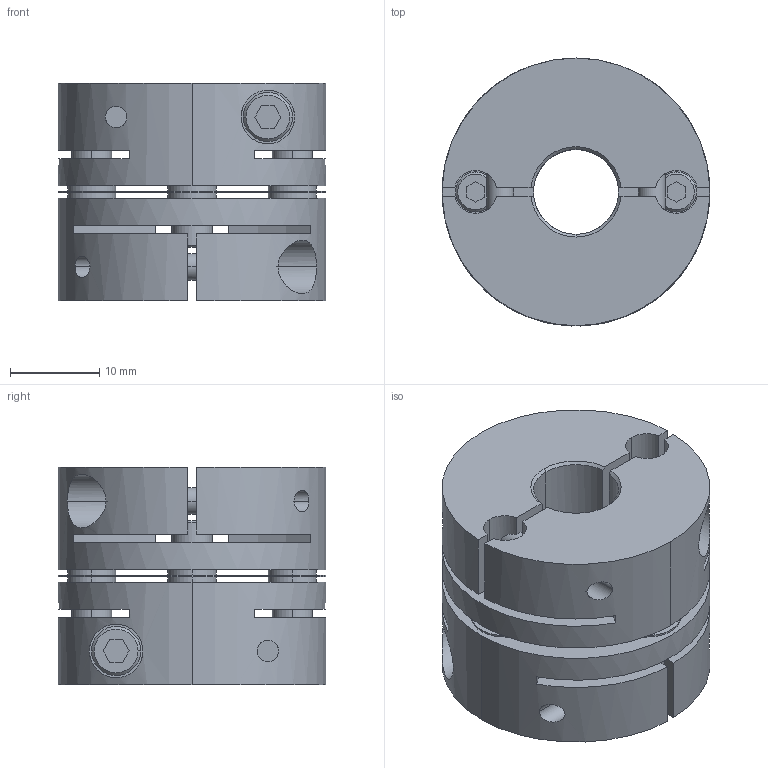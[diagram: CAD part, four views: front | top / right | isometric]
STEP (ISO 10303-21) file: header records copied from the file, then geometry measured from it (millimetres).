
FILE_DESCRIPTION((''),'2;1');
FILE_NAME('LAS-30C-9.525×9.525.stp','2015-10-14T15:18:57',(''),(''),'AutoCAD STEP 2000i','AutoCAD 2000i',', , ');
FILE_SCHEMA(('CONFIG_CONTROL_DESIGN'));
Length unit declared in the file: millimetre
Products named in the file (5): LAS-30C-6×6; 忣兜1; LA-3002-D06-1; LA-3002-D06; LAS30-ITA
Assembly tree (4 placements, depth 2):
  LAS-30C-6×6
    忣兜1
    LA-3002-D06-1
    LA-3002-D06
    LAS30-ITA
Bounding box: 30 x 30 x 24.4 mm (x, y, z)
Volume: 12875.4 mm3; surface area: 9112.1 mm2
Topology: 1 solids, 1 shells, 236 faces, 624 edges, 408 vertices
Faces by surface type: plane 112, cylinder 96, cone 28
Entity records: 8139 total; most frequent: CARTESIAN_POINT 1945, DIRECTION 1302, ORIENTED_EDGE 1248, EDGE_CURVE 624, AXIS2_PLACEMENT_3D 477, VERTEX_POINT 408, VECTOR 348, LINE 348
